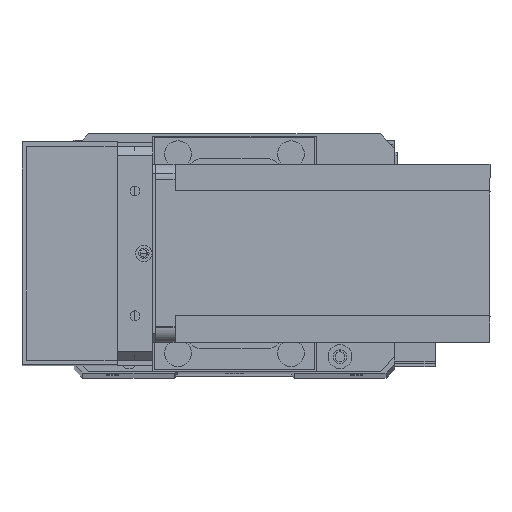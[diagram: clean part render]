
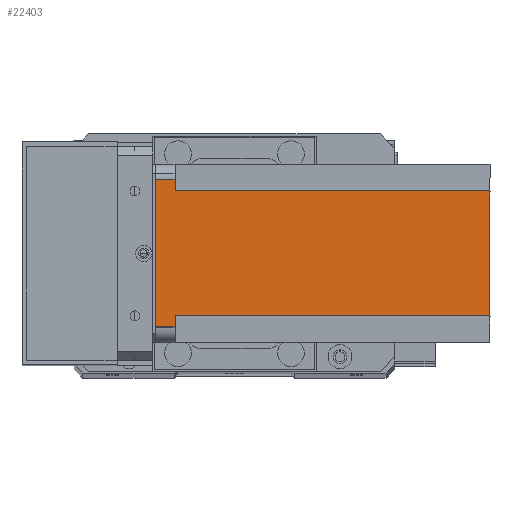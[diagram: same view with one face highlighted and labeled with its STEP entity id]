
A CAD part, top view. The second image highlights one B-rep face of the part: STEP entity #22403.
In plain terms, the highlighted planar face has unit normal (0, 0, 1) as drawn and (1, 0, 0) by its records, which use the part's own axes.
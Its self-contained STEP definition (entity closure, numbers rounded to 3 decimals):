
#1587 = EDGE_CURVE ( 'NONE', #4664, #26982, #19957, .T. ) ;
#2581 = LINE ( 'NONE', #29205, #8092 ) ;
#3698 = DIRECTION ( 'NONE',  ( 0., 0., -1. ) ) ;
#3715 = ORIENTED_EDGE ( 'NONE', *, *, #28804, .F. ) ;
#4664 = VERTEX_POINT ( 'NONE', #6071 ) ;
#4761 = ORIENTED_EDGE ( 'NONE', *, *, #11386, .T. ) ;
#5288 = ORIENTED_EDGE ( 'NONE', *, *, #27615, .T. ) ;
#5766 = ORIENTED_EDGE ( 'NONE', *, *, #16734, .T. ) ;
#6071 = CARTESIAN_POINT ( 'NONE',  ( 60., 9., -112.5 ) ) ;
#6090 = DIRECTION ( 'NONE',  ( 0., 1., 0. ) ) ;
#7091 = CARTESIAN_POINT ( 'NONE',  ( 60., 55., -6.5 ) ) ;
#7858 = ORIENTED_EDGE ( 'NONE', *, *, #1587, .F. ) ;
#8092 = VECTOR ( 'NONE', #22117, 1000. ) ;
#8254 = DIRECTION ( 'NONE',  ( 1., 0., 0. ) ) ;
#8555 = CARTESIAN_POINT ( 'NONE',  ( 60., 51., -112.5 ) ) ;
#8832 = CARTESIAN_POINT ( 'NONE',  ( 60., 51., -6.5 ) ) ;
#9015 = VERTEX_POINT ( 'NONE', #20319 ) ;
#9375 = ORIENTED_EDGE ( 'NONE', *, *, #20506, .F. ) ;
#9472 = CARTESIAN_POINT ( 'NONE',  ( 60., 0., -6.5 ) ) ;
#9837 = LINE ( 'NONE', #16970, #21573 ) ;
#10270 = CARTESIAN_POINT ( 'NONE',  ( 60., 0., -112.5 ) ) ;
#11386 = EDGE_CURVE ( 'NONE', #23217, #14862, #2581, .T. ) ;
#12098 = VECTOR ( 'NONE', #26662, 1000. ) ;
#13714 = VECTOR ( 'NONE', #29336, 1000. ) ;
#14029 = EDGE_LOOP ( 'NONE', ( #23113, #4761, #3715, #5288, #9375, #7858, #5766, #21264 ) ) ;
#14862 = VERTEX_POINT ( 'NONE', #17644 ) ;
#15433 = PLANE ( 'NONE',  #23241 ) ;
#15703 = VERTEX_POINT ( 'NONE', #16038 ) ;
#16038 = CARTESIAN_POINT ( 'NONE',  ( 60., 5., 0. ) ) ;
#16734 = EDGE_CURVE ( 'NONE', #4664, #30387, #30086, .T. ) ;
#16970 = CARTESIAN_POINT ( 'NONE',  ( 60., 0., 0. ) ) ;
#17077 = LINE ( 'NONE', #29487, #21097 ) ;
#17644 = CARTESIAN_POINT ( 'NONE',  ( 60., 55., 0. ) ) ;
#17760 = DIRECTION ( 'NONE',  ( 0., 0., -1. ) ) ;
#17825 = CARTESIAN_POINT ( 'NONE',  ( 60., 0., -112.5 ) ) ;
#19410 = VECTOR ( 'NONE', #17760, 1000. ) ;
#19957 = LINE ( 'NONE', #29533, #13714 ) ;
#20319 = CARTESIAN_POINT ( 'NONE',  ( 60., 5., -6.5 ) ) ;
#20506 = EDGE_CURVE ( 'NONE', #26982, #9015, #24912, .T. ) ;
#20963 = VERTEX_POINT ( 'NONE', #8832 ) ;
#21097 = VECTOR ( 'NONE', #3698, 1000. ) ;
#21264 = ORIENTED_EDGE ( 'NONE', *, *, #22908, .F. ) ;
#21520 = CARTESIAN_POINT ( 'NONE',  ( 60., 60., -6.5 ) ) ;
#21573 = VECTOR ( 'NONE', #28668, 1000. ) ;
#22117 = DIRECTION ( 'NONE',  ( 0., 0., 1. ) ) ;
#22175 = LINE ( 'NONE', #21520, #28455 ) ;
#22403 = ADVANCED_FACE ( 'NONE', ( #24071 ), #15433, .T. ) ;
#22908 = EDGE_CURVE ( 'NONE', #20963, #30387, #17077, .T. ) ;
#23113 = ORIENTED_EDGE ( 'NONE', *, *, #23881, .F. ) ;
#23217 = VERTEX_POINT ( 'NONE', #7091 ) ;
#23241 = AXIS2_PLACEMENT_3D ( 'NONE', #17825, #8254, #6090 ) ;
#23516 = DIRECTION ( 'NONE',  ( 0., -1., 0. ) ) ;
#23881 = EDGE_CURVE ( 'NONE', #23217, #20963, #22175, .T. ) ;
#23892 = DIRECTION ( 'NONE',  ( 0., -1., 0. ) ) ;
#24071 = FACE_OUTER_BOUND ( 'NONE', #14029, .T. ) ;
#24700 = CARTESIAN_POINT ( 'NONE',  ( 60., 5., -112.5 ) ) ;
#24841 = CARTESIAN_POINT ( 'NONE',  ( 60., 9., -6.5 ) ) ;
#24912 = LINE ( 'NONE', #9472, #30438 ) ;
#25614 = LINE ( 'NONE', #24700, #19410 ) ;
#26662 = DIRECTION ( 'NONE',  ( 0., 1., 0. ) ) ;
#26982 = VERTEX_POINT ( 'NONE', #24841 ) ;
#27615 = EDGE_CURVE ( 'NONE', #15703, #9015, #25614, .T. ) ;
#28455 = VECTOR ( 'NONE', #23892, 1000. ) ;
#28668 = DIRECTION ( 'NONE',  ( 0., 1., 0. ) ) ;
#28804 = EDGE_CURVE ( 'NONE', #15703, #14862, #9837, .T. ) ;
#29205 = CARTESIAN_POINT ( 'NONE',  ( 60., 55., -112.5 ) ) ;
#29336 = DIRECTION ( 'NONE',  ( 0., 0., 1. ) ) ;
#29487 = CARTESIAN_POINT ( 'NONE',  ( 60., 51., -112.5 ) ) ;
#29533 = CARTESIAN_POINT ( 'NONE',  ( 60., 9., -112.5 ) ) ;
#30086 = LINE ( 'NONE', #10270, #12098 ) ;
#30387 = VERTEX_POINT ( 'NONE', #8555 ) ;
#30438 = VECTOR ( 'NONE', #23516, 1000. ) ;
